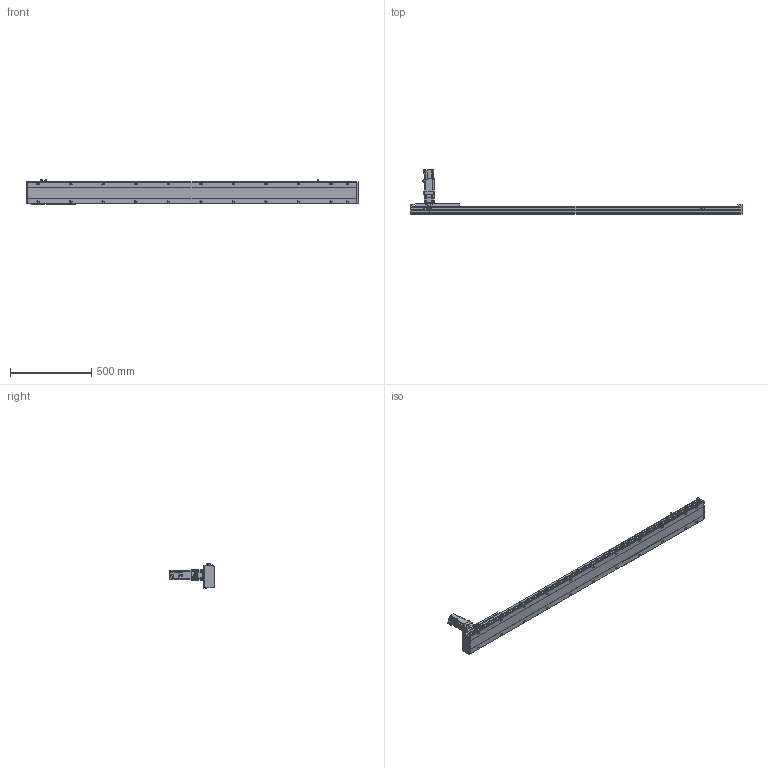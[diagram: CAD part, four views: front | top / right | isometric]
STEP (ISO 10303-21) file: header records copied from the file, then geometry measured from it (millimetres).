
FILE_DESCRIPTION(/* description */ ('STEP AP203'),/* implementation_level */ '2;1');
FILE_NAME(/* name */ 'SHS14A-L10-S1700-BC-T40-C1-N(0)',/* time_stamp */ '2023-03-27T08:49:19+02:00',/* author */ ('License CC BY-ND 4.0'),/* organization */ ('CADENAS'),/* preprocessor_version */ 'ST-DEVELOPER v19.3',/* originating_system */ 'PARTsolutions',/* authorisation */ ' ');
FILE_SCHEMA (('CONFIG_CONTROL_DESIGN'));
Length unit declared in the file: millimetre
Products named in the file (7): SHS14A-L10-S1700-BC-T40-C1-N(0); PSC140-sensor; T40-p1; SHS14AT_body3; SHS14A-1700_slider; SHS14A_body2; SHS14A-S1700-BC-T40-C1(0)_body
Assembly tree (13 placements, depth 2):
  SHS14A-L10-S1700-BC-T40-C1-N(0)
    PSC140-sensor  x3
    T40-p1
    SHS14AT_body3
    SHS14A-1700_slider
    SHS14A_body2  x6
    SHS14A-S1700-BC-T40-C1(0)_body
Bounding box: 2040 x 272.7 x 150.9 mm (x, y, z)
Volume: 8877128.5 mm3; surface area: 1398356.5 mm2
Topology: 13 solids, 13 shells, 2076 faces, 5303 edges, 3468 vertices
Faces by surface type: plane 1461, cylinder 531, cone 74, torus 10
Full cylindrical faces by diameter (mm): 2.8 x3, 4.134 x24, 4.2 x7, 4.4 x24, 4.5 x24, 4.6 x3, 4.8 x24, 4.917 x30, 5 x8, 5.5 x11, 5.94 x6, 6 x2, 6.6 x22, 8 x24, 8.49 x4, 8.5 x4, 9 x4, 10.5 x22, 13.964 x1, 14 x1, 14.182 x1, 16 x1, 18.974 x1, 19.274 x1, 19.774 x1, 19.8 x1, 34.442 x1, 42 x1, 50 x5
Entity records: 32912 total; most frequent: CARTESIAN_POINT 5832, DIRECTION 5565, ORIENTED_EDGE 5142, EDGE_CURVE 2571, AXIS2_PLACEMENT_3D 1921, VERTEX_POINT 1828, LINE 1723, VECTOR 1723
